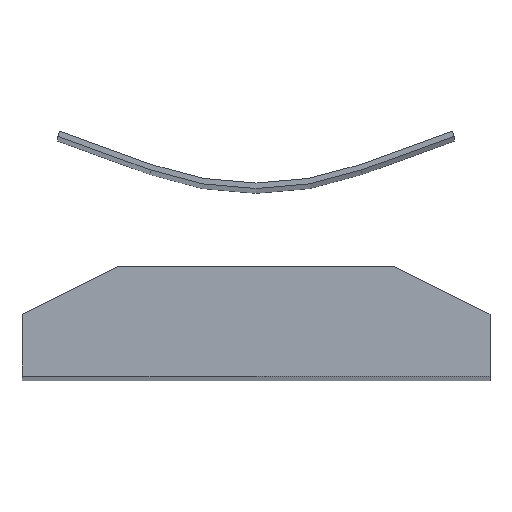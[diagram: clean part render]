
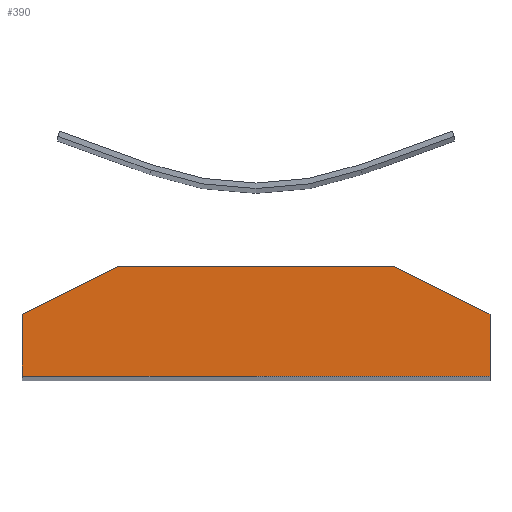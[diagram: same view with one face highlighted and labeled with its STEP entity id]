
A CAD part, top view. The second image highlights one B-rep face of the part: STEP entity #390.
In plain terms, the highlighted planar face has unit normal (0, 0, 1).
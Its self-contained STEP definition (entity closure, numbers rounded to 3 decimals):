
#39 = CARTESIAN_POINT ( 'NONE',  ( -340., 90., 2000. ) ) ;
#41 = CARTESIAN_POINT ( 'NONE',  ( 0., 0., 2000. ) ) ;
#54 = DIRECTION ( 'NONE',  ( -1., 0., 0. ) ) ;
#56 = DIRECTION ( 'NONE',  ( 0., 0., -1. ) ) ;
#59 = DIRECTION ( 'NONE',  ( -0.894, -0.447, 0. ) ) ;
#68 = CARTESIAN_POINT ( 'NONE',  ( 200., 160., 2000. ) ) ;
#72 = CARTESIAN_POINT ( 'NONE',  ( 200., 160., 2000. ) ) ;
#103 = CARTESIAN_POINT ( 'NONE',  ( 340., 0., 2000. ) ) ;
#109 = CARTESIAN_POINT ( 'NONE',  ( -340., 90., 2000. ) ) ;
#110 = DIRECTION ( 'NONE',  ( 1., 0., 0. ) ) ;
#117 = DIRECTION ( 'NONE',  ( 0., 1., 0. ) ) ;
#142 = CARTESIAN_POINT ( 'NONE',  ( -200., 160., 2000. ) ) ;
#155 = DIRECTION ( 'NONE',  ( -0.894, 0.447, 0. ) ) ;
#167 = CARTESIAN_POINT ( 'NONE',  ( -340., 0., 2000. ) ) ;
#173 = ORIENTED_EDGE ( 'NONE', *, *, #351, .T. ) ;
#174 = ORIENTED_EDGE ( 'NONE', *, *, #501, .T. ) ;
#191 = VECTOR ( 'NONE', #155, 1000. ) ;
#195 = LINE ( 'NONE', #72, #191 ) ;
#222 = CARTESIAN_POINT ( 'NONE',  ( 340., 90., 2000. ) ) ;
#228 = VECTOR ( 'NONE', #117, 1000. ) ;
#230 = CARTESIAN_POINT ( 'NONE',  ( -340., 0., 2000. ) ) ;
#233 = VECTOR ( 'NONE', #242, 1000. ) ;
#236 = LINE ( 'NONE', #222, #228 ) ;
#238 = LINE ( 'NONE', #230, #233 ) ;
#242 = DIRECTION ( 'NONE',  ( 0., -1., 0. ) ) ;
#262 = CARTESIAN_POINT ( 'NONE',  ( -340., 0., 2000. ) ) ;
#265 = VECTOR ( 'NONE', #59, 1000. ) ;
#272 = VECTOR ( 'NONE', #110, 1000. ) ;
#274 = LINE ( 'NONE', #109, #265 ) ;
#284 = PLANE ( 'NONE',  #504 ) ;
#287 = LINE ( 'NONE', #167, #272 ) ;
#292 = VECTOR ( 'NONE', #318, 1000. ) ;
#293 = FACE_OUTER_BOUND ( 'NONE', #584, .T. ) ;
#294 = LINE ( 'NONE', #321, #292 ) ;
#318 = DIRECTION ( 'NONE',  ( -1., 0., 0. ) ) ;
#321 = CARTESIAN_POINT ( 'NONE',  ( -200., 160., 2000. ) ) ;
#330 = VERTEX_POINT ( 'NONE', #39 ) ;
#349 = CARTESIAN_POINT ( 'NONE',  ( 340., 90., 2000. ) ) ;
#351 = EDGE_CURVE ( 'NONE', #577, #569, #294, .T. ) ;
#390 = ADVANCED_FACE ( 'NONE', ( #293 ), #284, .F. ) ;
#395 = VERTEX_POINT ( 'NONE', #349 ) ;
#406 = VERTEX_POINT ( 'NONE', #262 ) ;
#479 = ORIENTED_EDGE ( 'NONE', *, *, #568, .T. ) ;
#484 = EDGE_CURVE ( 'NONE', #406, #487, #287, .T. ) ;
#487 = VERTEX_POINT ( 'NONE', #103 ) ;
#493 = ORIENTED_EDGE ( 'NONE', *, *, #549, .T. ) ;
#501 = EDGE_CURVE ( 'NONE', #569, #330, #274, .T. ) ;
#504 = AXIS2_PLACEMENT_3D ( 'NONE', #41, #56, #54 ) ;
#505 = ORIENTED_EDGE ( 'NONE', *, *, #484, .T. ) ;
#537 = ORIENTED_EDGE ( 'NONE', *, *, #546, .T. ) ;
#546 = EDGE_CURVE ( 'NONE', #330, #406, #238, .T. ) ;
#549 = EDGE_CURVE ( 'NONE', #487, #395, #236, .T. ) ;
#568 = EDGE_CURVE ( 'NONE', #395, #577, #195, .T. ) ;
#569 = VERTEX_POINT ( 'NONE', #142 ) ;
#577 = VERTEX_POINT ( 'NONE', #68 ) ;
#584 = EDGE_LOOP ( 'NONE', ( #537, #505, #493, #479, #173, #174 ) ) ;
